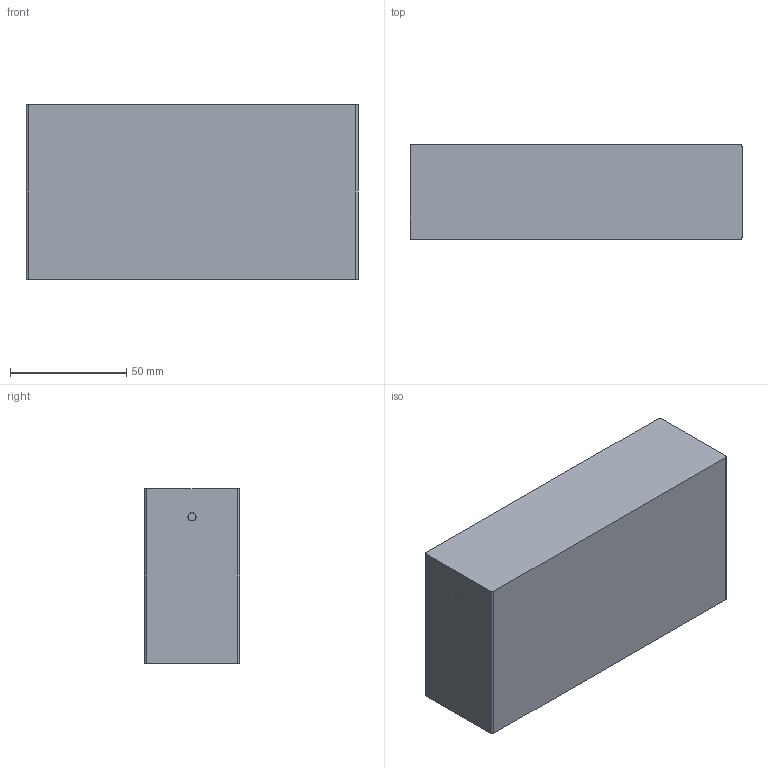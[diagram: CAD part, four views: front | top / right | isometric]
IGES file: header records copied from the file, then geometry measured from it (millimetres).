
Start section: SolidWorks IGES file using analytic representation for surfaces
Global section: file name: C:\Users\anna.bielnik\Desktop\PIX LED\PIX LED-11367.IGS; native system: SolidWorks 2023; preprocessor: SolidWorks 2023; author: anna.bielnik; date: 241003.143423; units: millimetre
Bounding box: 143 x 41 x 75 mm (x, y, z)
Surface area: 82652.8 mm2 (no closed solid volume)
Topology: 0 solids, 0 shells, 78 faces, 908 edges, 908 vertices
Faces by surface type: bspline 56, revolution 22
